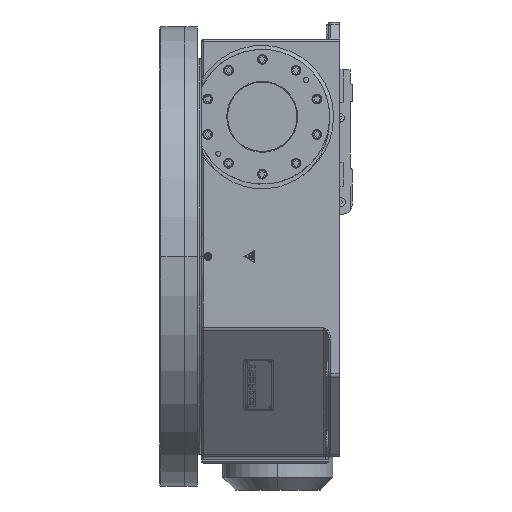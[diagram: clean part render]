
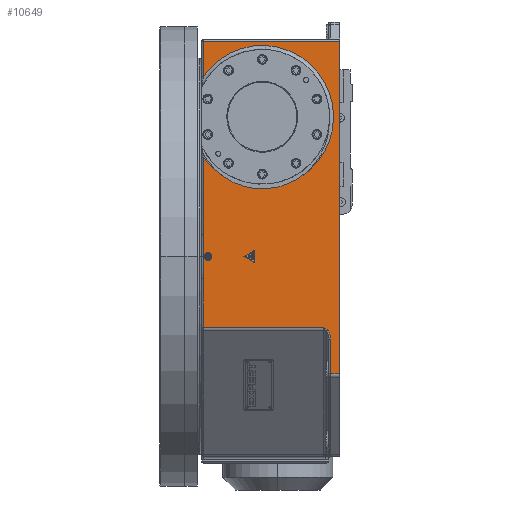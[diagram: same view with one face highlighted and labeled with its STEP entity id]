
A CAD part, left-side view. The second image highlights one B-rep face of the part: STEP entity #10649.
In plain terms, the highlighted planar face has unit normal (-1, 0, 0).
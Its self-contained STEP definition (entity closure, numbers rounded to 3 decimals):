
#268=DIRECTION('',(0.,0.,1.));
#269=VECTOR('',#268,666.474);
#270=CARTESIAN_POINT('',(-400.,0.,-235.474));
#271=LINE('',#270,#269);
#272=DIRECTION('',(0.,-1.,0.));
#273=VECTOR('',#272,18.);
#274=CARTESIAN_POINT('',(-400.,18.,-235.474));
#275=LINE('',#274,#273);
#276=DIRECTION('',(0.,0.,1.));
#277=VECTOR('',#276,69.716);
#278=CARTESIAN_POINT('',(-400.,18.,-235.474));
#279=LINE('',#278,#277);
#280=CARTESIAN_POINT('',(-400.,18.,-165.758));
#281=CARTESIAN_POINT('',(-400.,18.,-164.003));
#282=CARTESIAN_POINT('',(-400.,18.268,-160.684));
#283=CARTESIAN_POINT('',(-400.,19.283,-156.278));
#284=CARTESIAN_POINT('',(-400.,20.792,-152.456));
#285=CARTESIAN_POINT('',(-400.,22.734,-149.236));
#286=CARTESIAN_POINT('',(-400.,24.254,-147.557));
#287=CARTESIAN_POINT('',(-400.,25.075,-146.829));
#289=CARTESIAN_POINT('',(-400.,25.075,-146.829));
#290=CARTESIAN_POINT('',(-400.,25.559,-146.401));
#291=CARTESIAN_POINT('',(-400.,26.584,-145.548));
#292=CARTESIAN_POINT('',(-400.,28.288,-144.278));
#293=CARTESIAN_POINT('',(-400.,30.178,-142.986));
#294=CARTESIAN_POINT('',(-400.,31.394,-142.191));
#295=CARTESIAN_POINT('',(-400.,32.,-141.794));
#297=DIRECTION('',(0.,-1.,0.));
#298=VECTOR('',#297,241.);
#299=CARTESIAN_POINT('',(-400.,273.,-141.794));
#300=LINE('',#299,#298);
#301=DIRECTION('',(0.,0.,1.));
#302=VECTOR('',#301,97.171);
#303=CARTESIAN_POINT('',(-400.,273.,-141.794));
#304=LINE('',#303,#302);
#305=CARTESIAN_POINT('',(-400.,273.,-44.623));
#306=CARTESIAN_POINT('',(-400.,273.,-41.475));
#307=CARTESIAN_POINT('',(-400.,273.053,-34.896));
#308=CARTESIAN_POINT('',(-400.,273.229,-24.075));
#309=CARTESIAN_POINT('',(-400.,273.406,-12.614));
#310=CARTESIAN_POINT('',(-400.,273.461,-4.303));
#311=CARTESIAN_POINT('',(-400.,273.462,
0.));
#313=CARTESIAN_POINT('',(-400.,273.462,
0.));
#314=CARTESIAN_POINT('',(-400.,273.461,4.304));
#315=CARTESIAN_POINT('',(-400.,273.406,12.616));
#316=CARTESIAN_POINT('',(-400.,273.229,24.079));
#317=CARTESIAN_POINT('',(-400.,273.053,34.898));
#318=CARTESIAN_POINT('',(-400.,273.,41.476));
#319=CARTESIAN_POINT('',(-400.,273.,44.623));
#321=DIRECTION('',(0.,0.,1.));
#322=VECTOR('',#321,154.599);
#323=CARTESIAN_POINT('',(-400.,273.,44.623));
#324=LINE('',#323,#322);
#325=CARTESIAN_POINT('',(-400.,155.,280.));
#326=DIRECTION('',(-1.,0.,0.));
#327=DIRECTION('',(0.,0.825,-0.565));
#328=AXIS2_PLACEMENT_3D('',#325,#326,#327);
#330=DIRECTION('',(0.,0.,1.));
#331=VECTOR('',#330,70.223);
#332=CARTESIAN_POINT('',(-400.,273.,360.777));
#333=LINE('',#332,#331);
#334=DIRECTION('',(0.,-1.,0.));
#335=VECTOR('',#334,273.);
#336=CARTESIAN_POINT('',(-400.,273.,431.));
#337=LINE('',#336,#335);
#338=CARTESIAN_POINT('',(-400.,264.,0.));
#339=DIRECTION('',(-1.,0.,0.));
#340=DIRECTION('',(0.,-1.,0.));
#341=AXIS2_PLACEMENT_3D('',#338,#339,#340);
#343=CARTESIAN_POINT('',(-400.,264.,0.));
#344=DIRECTION('',(-1.,0.,0.));
#345=DIRECTION('',(0.,1.,0.));
#346=AXIS2_PLACEMENT_3D('',#343,#344,#345);
#6015=CARTESIAN_POINT('',(-400.,273.,360.777));
#8937=CARTESIAN_POINT('',(-400.,0.,-235.474));
#8938=CARTESIAN_POINT('',(-400.,0.,431.));
#8939=VERTEX_POINT('',#8937);
#8940=VERTEX_POINT('',#8938);
#9141=CARTESIAN_POINT('',(-400.,271.5,0.));
#9142=CARTESIAN_POINT('',(-400.,256.5,0.));
#9143=VERTEX_POINT('',#9141);
#9144=VERTEX_POINT('',#9142);
#10086=CARTESIAN_POINT('',(-400.,273.,-141.794));
#10087=VERTEX_POINT('',#10086);
#10090=CARTESIAN_POINT('',(-400.,273.,
-44.623));
#10091=VERTEX_POINT('',#10090);
#10093=VERTEX_POINT('',#311);
#10095=VERTEX_POINT('',#319);
#10098=CARTESIAN_POINT('',(-400.,273.,
199.222));
#10099=VERTEX_POINT('',#10098);
#10105=VERTEX_POINT('',#6015);
#10108=CARTESIAN_POINT('',(-400.,273.,431.));
#10109=VERTEX_POINT('',#10108);
#10339=VERTEX_POINT('',#289);
#10340=VERTEX_POINT('',#295);
#10343=VERTEX_POINT('',#280);
#10346=CARTESIAN_POINT('',(-400.,18.,-235.474));
#10347=VERTEX_POINT('',#10346);
#10610=CARTESIAN_POINT('',(-400.,-5.,-239.113));
#10611=DIRECTION('',(-1.,0.,0.));
#10612=DIRECTION('',(0.,0.,1.));
#10613=AXIS2_PLACEMENT_3D('',#10610,#10611,#10612);
#10614=PLANE('',#10613);
#10616=ORIENTED_EDGE('',*,*,#10615,.F.);
#10618=ORIENTED_EDGE('',*,*,#10617,.F.);
#10620=ORIENTED_EDGE('',*,*,#10619,.T.);
#10622=ORIENTED_EDGE('',*,*,#10621,.T.);
#10624=ORIENTED_EDGE('',*,*,#10623,.T.);
#10626=ORIENTED_EDGE('',*,*,#10625,.F.);
#10628=ORIENTED_EDGE('',*,*,#10627,.T.);
#10630=ORIENTED_EDGE('',*,*,#10629,.T.);
#10632=ORIENTED_EDGE('',*,*,#10631,.T.);
#10634=ORIENTED_EDGE('',*,*,#10633,.T.);
#10636=ORIENTED_EDGE('',*,*,#10635,.T.);
#10638=ORIENTED_EDGE('',*,*,#10637,.T.);
#10640=ORIENTED_EDGE('',*,*,#10639,.T.);
#10641=EDGE_LOOP('',(#10616,#10618,#10620,#10622,#10624,#10626,#10628,#10630,
#10632,#10634,#10636,#10638,#10640));
#10642=FACE_OUTER_BOUND('',#10641,.F.);
#10644=ORIENTED_EDGE('',*,*,#10643,.T.);
#10646=ORIENTED_EDGE('',*,*,#10645,.T.);
#10647=EDGE_LOOP('',(#10644,#10646));
#10648=FACE_BOUND('',#10647,.F.);
#10649=ADVANCED_FACE('',(#10642,#10648),#10614,.T.);
#288=B_SPLINE_CURVE_WITH_KNOTS('',3,(#280,#281,#282,#283,#284,#285,#286,#287),
.UNSPECIFIED.,.F.,.F.,(4,1,1,1,1,4),(0.,0.2,0.4,0.6,0.8,1.),
.UNSPECIFIED.);
#296=B_SPLINE_CURVE_WITH_KNOTS('',3,(#289,#290,#291,#292,#293,#294,#295),
.UNSPECIFIED.,.F.,.F.,(4,1,1,1,4),(0.,0.25,0.5,0.75,1.),
.UNSPECIFIED.);
#312=B_SPLINE_CURVE_WITH_KNOTS('',3,(#305,#306,#307,#308,#309,#310,#311),
.UNSPECIFIED.,.F.,.F.,(4,1,1,1,4),(0.,0.25,0.5,0.75,1.),
.UNSPECIFIED.);
#320=B_SPLINE_CURVE_WITH_KNOTS('',3,(#313,#314,#315,#316,#317,#318,#319),
.UNSPECIFIED.,.F.,.F.,(4,1,1,1,4),(0.,0.25,0.5,0.75,1.),
.UNSPECIFIED.);
#329=CIRCLE('',#328,143.);
#342=CIRCLE('',#341,7.5);
#347=CIRCLE('',#346,7.5);
#10615=EDGE_CURVE('',#8939,#8940,#271,.T.);
#10617=EDGE_CURVE('',#10347,#8939,#275,.T.);
#10619=EDGE_CURVE('',#10347,#10343,#279,.T.);
#10621=EDGE_CURVE('',#10343,#10339,#288,.T.);
#10623=EDGE_CURVE('',#10339,#10340,#296,.T.);
#10625=EDGE_CURVE('',#10087,#10340,#300,.T.);
#10627=EDGE_CURVE('',#10087,#10091,#304,.T.);
#10629=EDGE_CURVE('',#10091,#10093,#312,.T.);
#10631=EDGE_CURVE('',#10093,#10095,#320,.T.);
#10633=EDGE_CURVE('',#10095,#10099,#324,.T.);
#10635=EDGE_CURVE('',#10099,#10105,#329,.T.);
#10637=EDGE_CURVE('',#10105,#10109,#333,.T.);
#10639=EDGE_CURVE('',#10109,#8940,#337,.T.);
#10643=EDGE_CURVE('',#9144,#9143,#342,.T.);
#10645=EDGE_CURVE('',#9143,#9144,#347,.T.);
